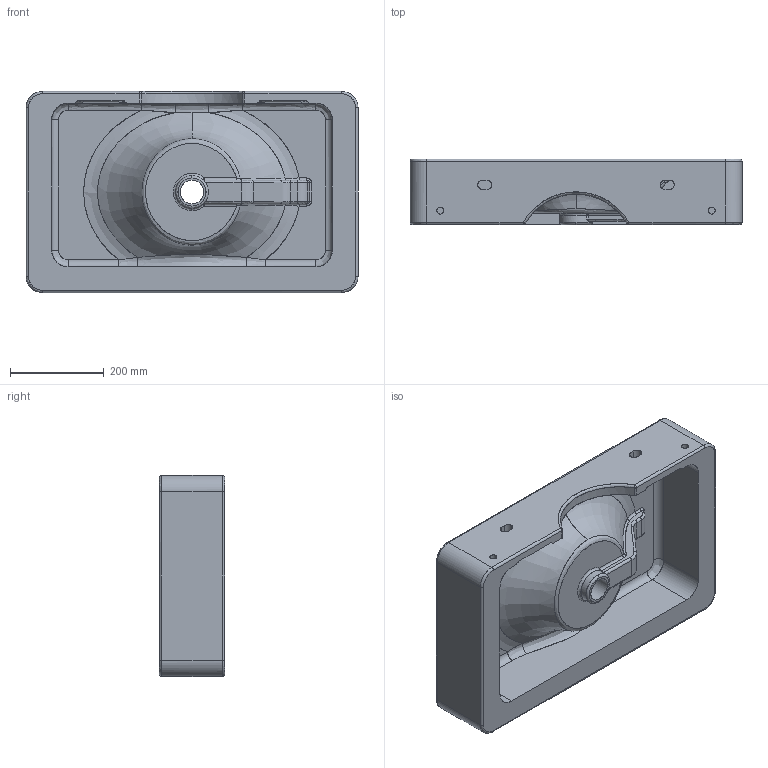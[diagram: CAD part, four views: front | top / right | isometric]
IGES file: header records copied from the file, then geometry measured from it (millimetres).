
Start section: C
Global section: file name: Lines 70x44.igs; native system:  By UGS Corp.; preprocessor: XPlus GENERIC/IGES 3.0; author: Author; organization: Title; date: 20140131.122948; units: millimetre
Bounding box: 710 x 140 x 430 mm (x, y, z)
Surface area: 1179997.3 mm2 (no closed solid volume)
Topology: 0 solids, 0 shells, 151 faces, 752 edges, 748 vertices
Faces by surface type: bspline 151
